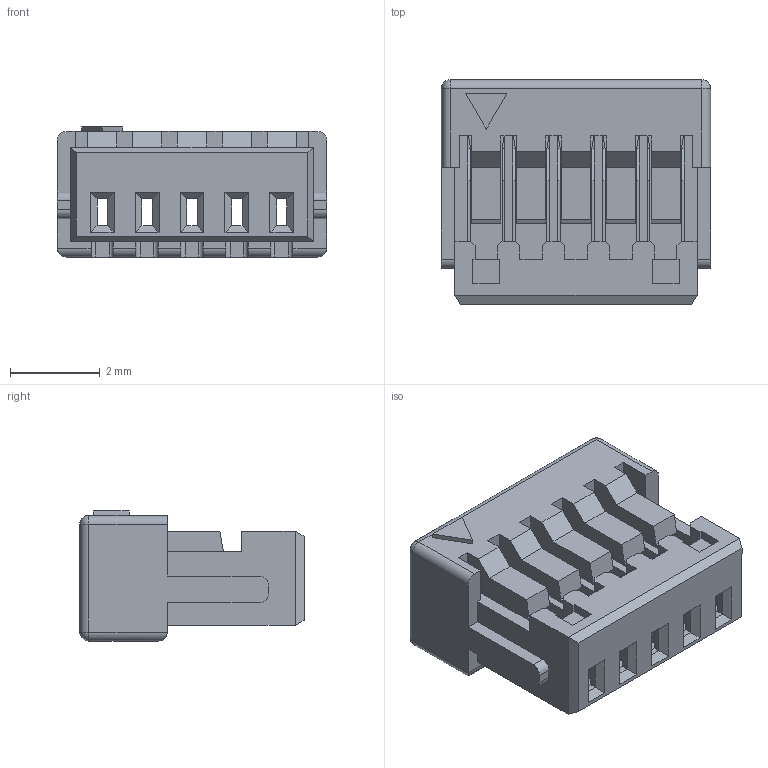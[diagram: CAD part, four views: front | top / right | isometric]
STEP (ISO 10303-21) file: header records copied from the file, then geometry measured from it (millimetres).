
FILE_DESCRIPTION((''),'2;1');
FILE_NAME('111','2017-08-08T',('k49820'),(''),'PRO/ENGINEER BY PARAMETRIC TECHNOLOGY CORPORATION, 2009360','PRO/ENGINEER BY PARAMETRIC TECHNOLOGY CORPORATION, 2009360','');
FILE_SCHEMA(('CONFIG_CONTROL_DESIGN'));
Length unit declared in the file: millimetre
Products named in the file (1): 111
Bounding box: 6 x 5 x 2.9 mm (x, y, z)
Volume: 35.6 mm3; surface area: 230.8 mm2
Topology: 1 solids, 1 shells, 316 faces, 892 edges, 570 vertices
Faces by surface type: plane 284, cylinder 28, sphere 4
Entity records: 10040 total; most frequent: CARTESIAN_POINT 1804, ORIENTED_EDGE 1776, DIRECTION 1570, EDGE_CURVE 888, VECTOR 834, LINE 834, VERTEX_POINT 570, AXIS2_PLACEMENT_3D 368
